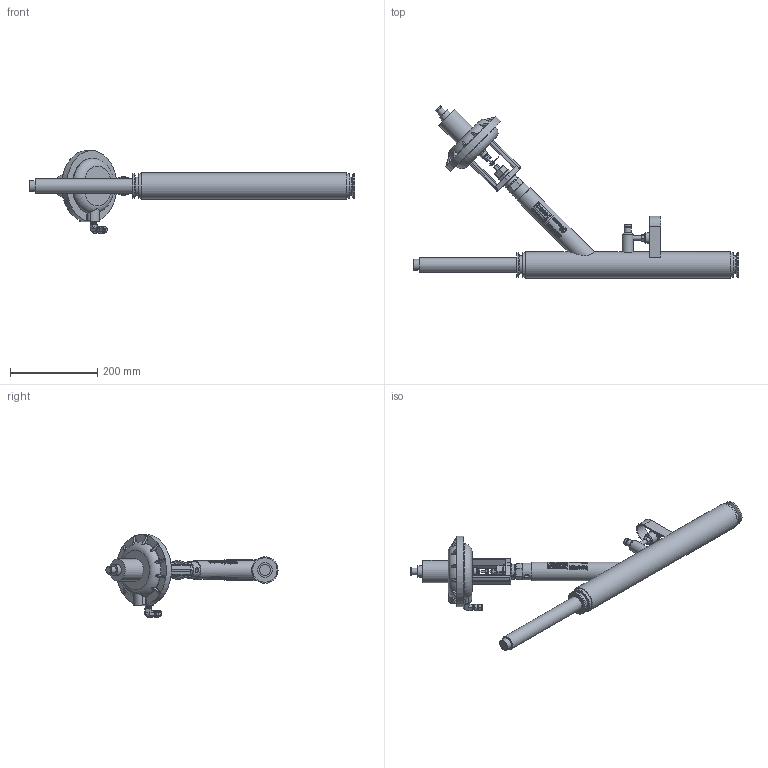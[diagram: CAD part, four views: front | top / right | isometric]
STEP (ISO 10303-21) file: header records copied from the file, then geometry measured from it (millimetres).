
FILE_DESCRIPTION (( 'STEP AP203' ), '1' );
FILE_NAME ('CA02490.step', '2025-12-17T20:03:55', ( '' ), ( '' ), 'SwSTEP 2.0', 'SolidWorks 2023', '' );
FILE_SCHEMA (( 'CONFIG_CONTROL_DESIGN' ));
Products named in the file (1): CA02490
Bounding box: 744.54 x 394.42 x 189.83 mm (x, y, z)
Volume: 3008232.2 mm3; surface area: 285080.2 mm2
Topology: 1 solids, 2 shells, 1604 faces, 4044 edges, 2652 vertices
Faces by surface type: plane 953, cylinder 417, bspline 133, cone 69, torus 32
Full cylindrical faces by diameter (mm): 0.597 x2, 0.654 x2, 0.711 x2, 0.816 x2, 0.921 x2, 1.187 x2, 1.228 x2, 1.363 x2, 1.453 x2, 1.523 x2, 1.604 x2, 1.829 x2, 1.935 x4, 2.471 x2, 3.052 x2, 3.693 x2, 3.81 x2, 4.3 x2, 4.572 x1, 5.08 x1, 6.35 x1, 7.722 x1, 7.938 x1, 9.728 x1, 10.04 x1, 10.16 x1, 10.236 x1, 11.163 x1, 14.288 x1, 15.494 x1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
Entity records: 70489 total; most frequent: CARTESIAN_POINT 35614, ORIENTED_EDGE 7776, DIRECTION 6132, EDGE_CURVE 3888, VERTEX_POINT 2620, AXIS2_PLACEMENT_3D 2117, EDGE_LOOP 1940, VECTOR 1898
